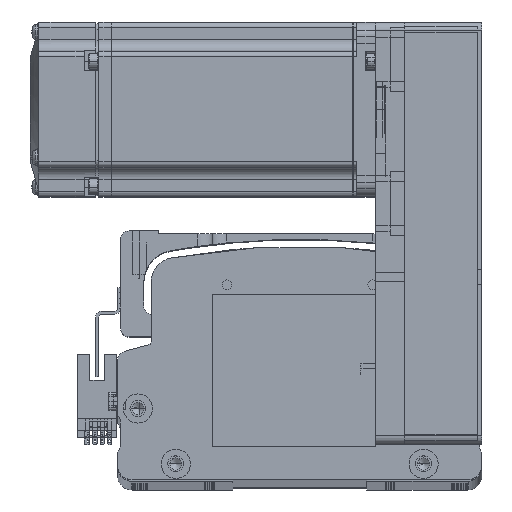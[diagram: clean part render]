
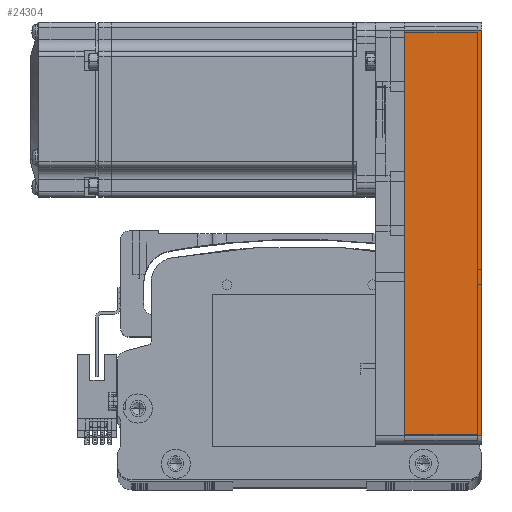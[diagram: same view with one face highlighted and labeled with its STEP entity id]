
A CAD part, top view. The second image highlights one B-rep face of the part: STEP entity #24304.
In plain terms, the highlighted planar face has unit normal (0, 0, 1) as drawn and (0, 1, 0) by its records, which use the part's own axes.
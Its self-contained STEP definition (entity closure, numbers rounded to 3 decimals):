
#3284 = CARTESIAN_POINT ( 'NONE',  ( 69.5, 30., 0. ) ) ;
#3658 = EDGE_CURVE ( 'NONE', #57870, #55805, #51951, .T. ) ;
#7389 = PLANE ( 'NONE',  #79280 ) ;
#13868 = LINE ( 'NONE', #23828, #84626 ) ;
#14387 = DIRECTION ( 'NONE',  ( -1., 0., 0. ) ) ;
#17595 = DIRECTION ( 'NONE',  ( -1., 0., 0. ) ) ;
#20869 = DIRECTION ( 'NONE',  ( 0., 0., -1. ) ) ;
#23036 = CARTESIAN_POINT ( 'NONE',  ( 69.5, 30., 26.5 ) ) ;
#23828 = CARTESIAN_POINT ( 'NONE',  ( 72.5, 30., 26.5 ) ) ;
#24304 = ADVANCED_FACE ( 'NONE', ( #37027 ), #7389, .F. ) ;
#27260 = CARTESIAN_POINT ( 'NONE',  ( -69.5, 30., 0. ) ) ;
#27881 = DIRECTION ( 'NONE',  ( 0., 0., 1. ) ) ;
#29860 = ORIENTED_EDGE ( 'NONE', *, *, #43774, .T. ) ;
#32589 = VERTEX_POINT ( 'NONE', #23036 ) ;
#34742 = ORIENTED_EDGE ( 'NONE', *, *, #75751, .T. ) ;
#34935 = CARTESIAN_POINT ( 'NONE',  ( 72.5, 30., 26.5 ) ) ;
#35053 = CARTESIAN_POINT ( 'NONE',  ( -69.5, 30., 26.5 ) ) ;
#35197 = VECTOR ( 'NONE', #20869, 1000. ) ;
#35996 = VECTOR ( 'NONE', #14387, 1000. ) ;
#37027 = FACE_OUTER_BOUND ( 'NONE', #69517, .T. ) ;
#41811 = DIRECTION ( 'NONE',  ( 1., 0., 0. ) ) ;
#43774 = EDGE_CURVE ( 'NONE', #32589, #49108, #73865, .T. ) ;
#49108 = VERTEX_POINT ( 'NONE', #3284 ) ;
#49518 = CARTESIAN_POINT ( 'NONE',  ( -69.5, 30., 26.5 ) ) ;
#51951 = LINE ( 'NONE', #35053, #88494 ) ;
#54282 = LINE ( 'NONE', #75776, #35996 ) ;
#55305 = ORIENTED_EDGE ( 'NONE', *, *, #63725, .F. ) ;
#55805 = VERTEX_POINT ( 'NONE', #49518 ) ;
#57870 = VERTEX_POINT ( 'NONE', #27260 ) ;
#58710 = ORIENTED_EDGE ( 'NONE', *, *, #3658, .T. ) ;
#63725 = EDGE_CURVE ( 'NONE', #32589, #55805, #13868, .T. ) ;
#67981 = CARTESIAN_POINT ( 'NONE',  ( 69.5, 30., 26.5 ) ) ;
#69517 = EDGE_LOOP ( 'NONE', ( #34742, #58710, #55305, #29860 ) ) ;
#73865 = LINE ( 'NONE', #67981, #35197 ) ;
#75751 = EDGE_CURVE ( 'NONE', #49108, #57870, #54282, .T. ) ;
#75776 = CARTESIAN_POINT ( 'NONE',  ( 72.5, 30., 0. ) ) ;
#79280 = AXIS2_PLACEMENT_3D ( 'NONE', #34935, #82953, #41811 ) ;
#82953 = DIRECTION ( 'NONE',  ( 0., -1., 0. ) ) ;
#84626 = VECTOR ( 'NONE', #17595, 1000. ) ;
#88494 = VECTOR ( 'NONE', #27881, 1000. ) ;
